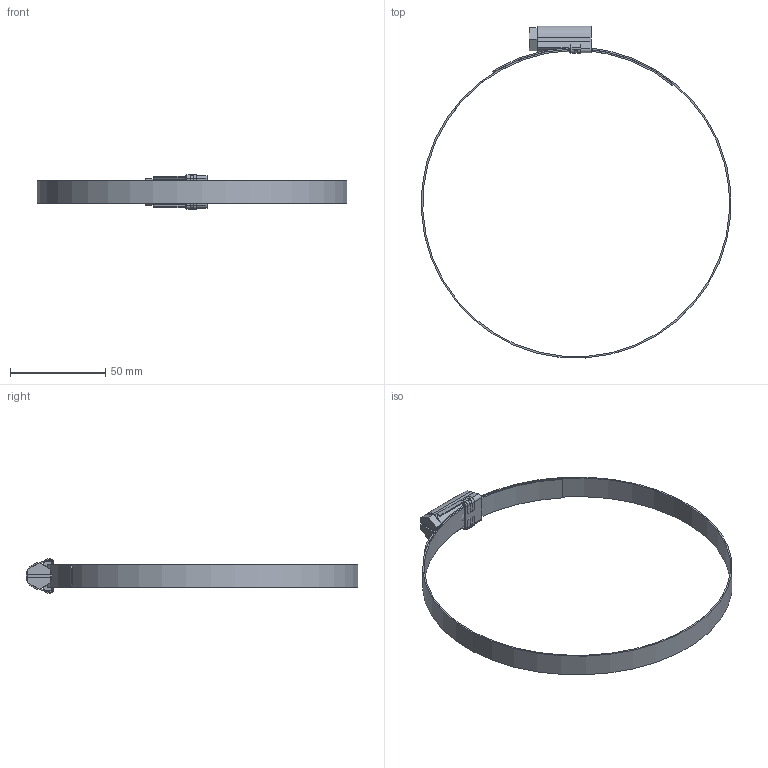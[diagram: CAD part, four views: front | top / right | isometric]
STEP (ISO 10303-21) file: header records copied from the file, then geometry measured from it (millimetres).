
FILE_DESCRIPTION (( 'STEP AP203' ), '1' );
FILE_NAME ('3D-R548_140-160_171786440.STEP', '2024-09-02T14:34:33', ( '' ), ( '' ), 'SwSTEP 2.0', 'SolidWorks 2024', '' );
FILE_SCHEMA (( 'CONFIG_CONTROL_DESIGN' ));
Length unit declared in the file: millimetre
Products named in the file (1): 3D-R548_140-160_171786440
Bounding box: 162.32 x 174.14 x 18 mm (x, y, z)
Volume: 10988.9 mm3; surface area: 19954.1 mm2
Topology: 4 solids, 4 shells, 94 faces, 262 edges, 172 vertices
Faces by surface type: plane 59, cylinder 28, bspline 3, cone 2, torus 2
Entity records: 3895 total; most frequent: CARTESIAN_POINT 1450, ORIENTED_EDGE 524, DIRECTION 456, EDGE_CURVE 262, VERTEX_POINT 172, LINE 164, VECTOR 164, AXIS2_PLACEMENT_3D 146
